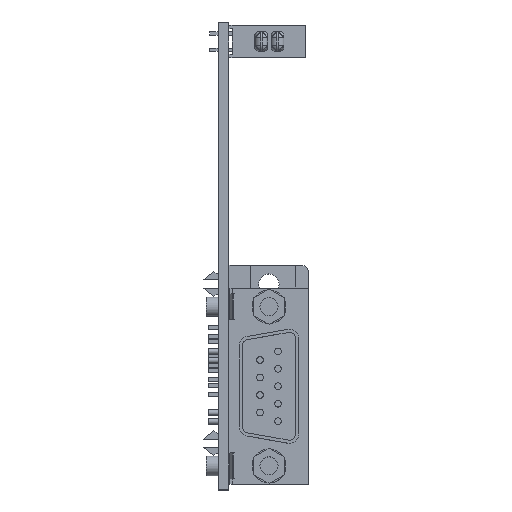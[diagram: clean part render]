
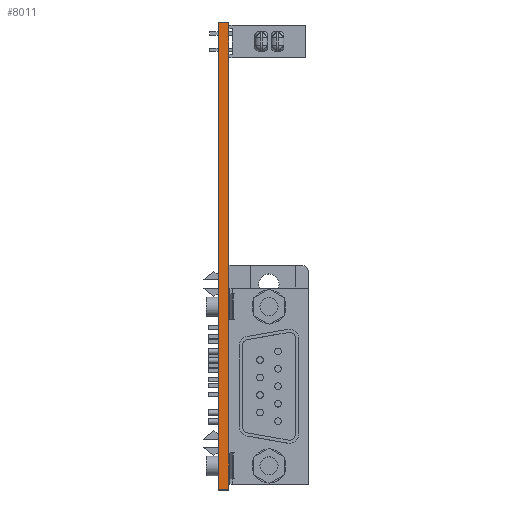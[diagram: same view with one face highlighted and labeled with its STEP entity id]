
A CAD part, top view. The second image highlights one B-rep face of the part: STEP entity #8011.
In plain terms, the highlighted planar face has unit normal (0, 0, 1).
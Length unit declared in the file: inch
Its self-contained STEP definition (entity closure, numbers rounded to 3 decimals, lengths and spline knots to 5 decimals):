
#405=DIRECTION('',(0.,-1.,0.));
#406=VECTOR('',#405,1.6205);
#407=CARTESIAN_POINT('',(-0.233,1.2235,2.721));
#408=LINE('',#407,#406);
#421=DIRECTION('',(0.,-1.,0.));
#422=VECTOR('',#421,0.16);
#423=CARTESIAN_POINT('',(-0.233,1.4035,2.721));
#424=LINE('',#423,#422);
#437=DIRECTION('',(0.,-1.,0.));
#438=VECTOR('',#437,0.0205);
#439=CARTESIAN_POINT('',(-0.233,1.444,2.721));
#440=LINE('',#439,#438);
#505=DIRECTION('',(0.,-1.,0.));
#506=VECTOR('',#505,0.225);
#507=CARTESIAN_POINT('',(-0.233,-1.22,2.721));
#508=LINE('',#507,#506);
#633=DIRECTION('',(0.,-1.,0.));
#634=VECTOR('',#633,0.823);
#635=CARTESIAN_POINT('',(-0.233,-0.397,2.721));
#636=LINE('',#635,#634);
#637=DIRECTION('',(1.,0.,0.));
#638=VECTOR('',#637,0.062);
#639=CARTESIAN_POINT('',(-0.295,1.444,2.721));
#640=LINE('',#639,#638);
#641=DIRECTION('',(0.,-1.,0.));
#642=VECTOR('',#641,0.02);
#643=CARTESIAN_POINT('',(-0.233,1.4235,2.721));
#644=LINE('',#643,#642);
#645=DIRECTION('',(0.,-1.,0.));
#646=VECTOR('',#645,0.02);
#647=CARTESIAN_POINT('',(-0.233,1.2435,2.721));
#648=LINE('',#647,#646);
#649=DIRECTION('',(1.,0.,0.));
#650=VECTOR('',#649,0.062);
#651=CARTESIAN_POINT('',(-0.295,-1.445,2.721));
#652=LINE('',#651,#650);
#675=DIRECTION('',(0.,-1.,0.));
#676=VECTOR('',#675,2.889);
#677=CARTESIAN_POINT('',(-0.295,1.444,2.721));
#678=LINE('',#677,#676);
#5659=CARTESIAN_POINT('',(-0.295,1.444,2.721));
#5660=CARTESIAN_POINT('',(-0.295,-1.445,2.721));
#5661=VERTEX_POINT('',#5659);
#5662=VERTEX_POINT('',#5660);
#5675=CARTESIAN_POINT('',(-0.233,1.444,2.721));
#5676=VERTEX_POINT('',#5675);
#5677=CARTESIAN_POINT('',(-0.233,-1.445,2.721));
#5678=VERTEX_POINT('',#5677);
#6687=CARTESIAN_POINT('',(-0.233,1.4235,2.721));
#6688=VERTEX_POINT('',#6687);
#6689=CARTESIAN_POINT('',(-0.233,1.2235,2.721));
#6690=VERTEX_POINT('',#6689);
#6691=CARTESIAN_POINT('',(-0.233,1.2435,2.721));
#6692=VERTEX_POINT('',#6691);
#6693=CARTESIAN_POINT('',(-0.233,1.4035,2.721));
#6694=VERTEX_POINT('',#6693);
#7195=CARTESIAN_POINT('',(-0.233,-0.397,2.721));
#7196=VERTEX_POINT('',#7195);
#7197=CARTESIAN_POINT('',(-0.233,-1.22,2.721));
#7199=VERTEX_POINT('',#7197);
#7989=CARTESIAN_POINT('',(-0.295,1.444,2.721));
#7990=DIRECTION('',(0.,0.,1.));
#7991=DIRECTION('',(0.,-1.,0.));
#7992=AXIS2_PLACEMENT_3D('',#7989,#7990,#7991);
#7993=PLANE('',#7992);
#7994=ORIENTED_EDGE('',*,*,#7979,.T.);
#7995=ORIENTED_EDGE('',*,*,#7848,.T.);
#7997=ORIENTED_EDGE('',*,*,#7996,.F.);
#7999=ORIENTED_EDGE('',*,*,#7998,.F.);
#8001=ORIENTED_EDGE('',*,*,#8000,.T.);
#8002=ORIENTED_EDGE('',*,*,#7816,.T.);
#8004=ORIENTED_EDGE('',*,*,#8003,.T.);
#8005=ORIENTED_EDGE('',*,*,#7808,.T.);
#8007=ORIENTED_EDGE('',*,*,#8006,.T.);
#8008=ORIENTED_EDGE('',*,*,#7801,.T.);
#8009=EDGE_LOOP('',(#7994,#7995,#7997,#7999,#8001,#8002,#8004,#8005,#8007,
#8008));
#8010=FACE_OUTER_BOUND('',#8009,.F.);
#8011=ADVANCED_FACE('',(#8010),#7993,.T.);
#7801=EDGE_CURVE('',#6690,#7196,#408,.T.);
#7808=EDGE_CURVE('',#6694,#6692,#424,.T.);
#7816=EDGE_CURVE('',#5676,#6688,#440,.T.);
#7848=EDGE_CURVE('',#7199,#5678,#508,.T.);
#7979=EDGE_CURVE('',#7196,#7199,#636,.T.);
#7996=EDGE_CURVE('',#5662,#5678,#652,.T.);
#7998=EDGE_CURVE('',#5661,#5662,#678,.T.);
#8000=EDGE_CURVE('',#5661,#5676,#640,.T.);
#8003=EDGE_CURVE('',#6688,#6694,#644,.T.);
#8006=EDGE_CURVE('',#6692,#6690,#648,.T.);
